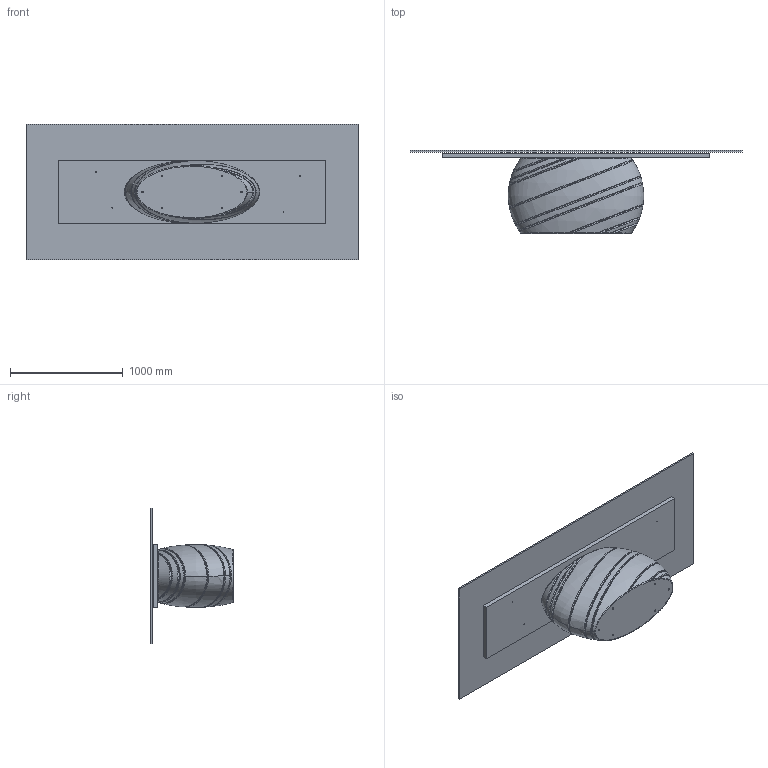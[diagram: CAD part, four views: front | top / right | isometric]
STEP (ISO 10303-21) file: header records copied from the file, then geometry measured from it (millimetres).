
FILE_DESCRIPTION (( 'STEP AP203' ), '1' );
FILE_NAME ('GI29G.STEP', '2025-04-22T14:17:34', ( '' ), ( '' ), 'SwSTEP 2.0', 'SolidWorks 2022', '' );
FILE_SCHEMA (( 'CONFIG_CONTROL_DESIGN' ));
Length unit declared in the file: millimetre
Products named in the file (3): PIANI_modello 3D x web_Cristallo 295x120; GI29G; GIB000xxx-00-BASE GIOVE X 300
Assembly tree (2 placements, depth 2):
  GI29G
    PIANI_modello 3D x web_Cristallo 295x120
    GIB000xxx-00-BASE GIOVE X 300
Bounding box: 2950 x 737 x 1200 mm (x, y, z)
Volume: 422907146.4 mm3; surface area: 12869002.2 mm2
Topology: 3 solids, 3 shells, 148 faces, 357 edges, 230 vertices
Faces by surface type: bspline 53, cylinder 36, plane 35, cone 24
Entity records: 36946 total; most frequent: CARTESIAN_POINT 33563, ORIENTED_EDGE 714, DIRECTION 512, EDGE_CURVE 357, VERTEX_POINT 230, AXIS2_PLACEMENT_3D 208, EDGE_LOOP 175, B_SPLINE_CURVE_WITH_KNOTS 153
